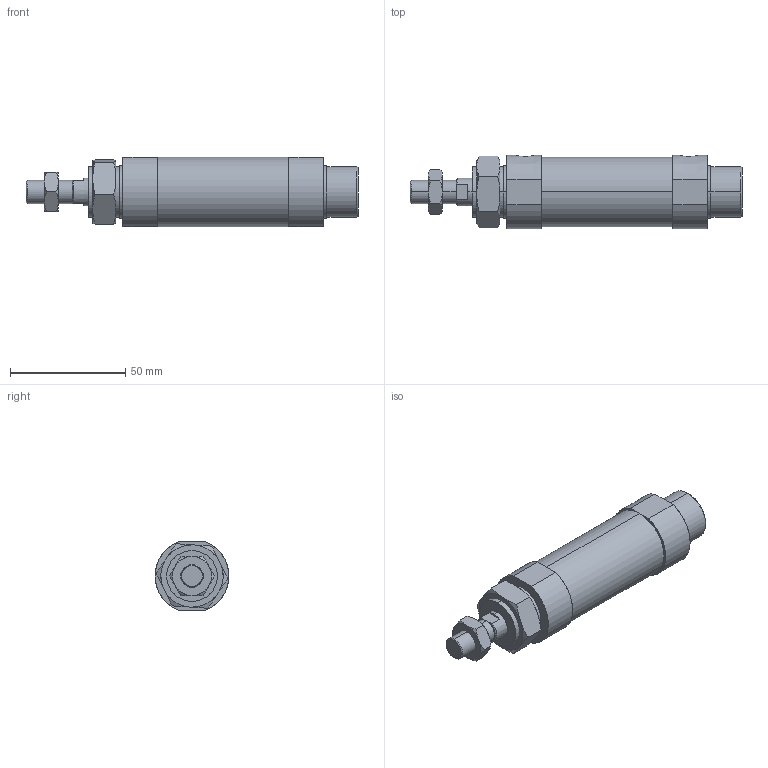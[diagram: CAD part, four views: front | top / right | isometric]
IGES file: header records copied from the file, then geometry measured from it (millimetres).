
Start section: SolidWorks IGES file using analytic representation for surfaces
Global section: file name: C:\Users\Toshiba\Desktop\J#2-25-25-N.IGS; native system: SolidWorks 2014; preprocessor: SolidWorks 2014; author: Toshiba; date: 160308.150947; units: millimetre
Bounding box: 144 x 32 x 30 mm (x, y, z)
Surface area: 17298.5 mm2 (no closed solid volume)
Topology: 0 solids, 0 shells, 97 faces, 1744 edges, 1740 vertices
Faces by surface type: bspline 61, revolution 36
